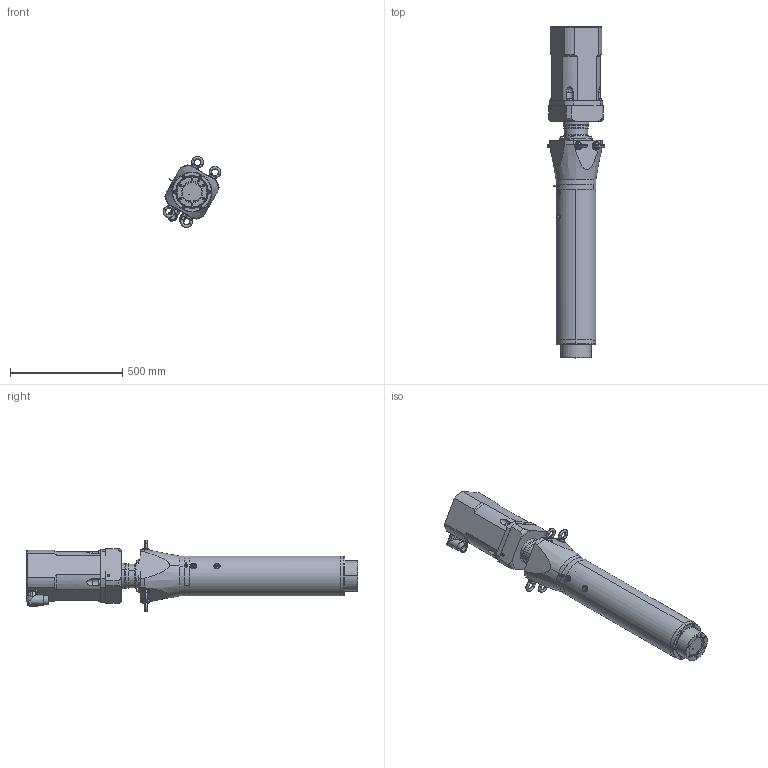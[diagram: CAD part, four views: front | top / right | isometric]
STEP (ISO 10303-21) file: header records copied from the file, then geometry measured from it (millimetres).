
FILE_DESCRIPTION (( 'STEP AP203' ), '1' );
FILE_NAME ('LN5I0600-035-025HG0.STEP', '2014-09-29T13:18:56', ( 'Holtz' ), ( '' ), 'SwSTEP 2.0', 'SolidWorks 2013', '' );
FILE_SCHEMA (( 'CONFIG_CONTROL_DESIGN' ));
Length unit declared in the file: millimetre
Products named in the file (1): LN5I0600-035-025HG0
Bounding box: 257.94 x 1479 x 317.97 mm (x, y, z)
Volume: 31515650.1 mm3; surface area: 2249148.5 mm2
Topology: 33 solids, 33 shells, 1184 faces, 2779 edges, 1644 vertices
Faces by surface type: cylinder 456, plane 362, cone 208, torus 82, bspline 74, sphere 2
Entity records: 39186 total; most frequent: CARTESIAN_POINT 12399, DIRECTION 5852, ORIENTED_EDGE 5274, EDGE_CURVE 2637, AXIS2_PLACEMENT_3D 2342, VERTEX_POINT 1644, EDGE_LOOP 1399, CIRCLE 1231
